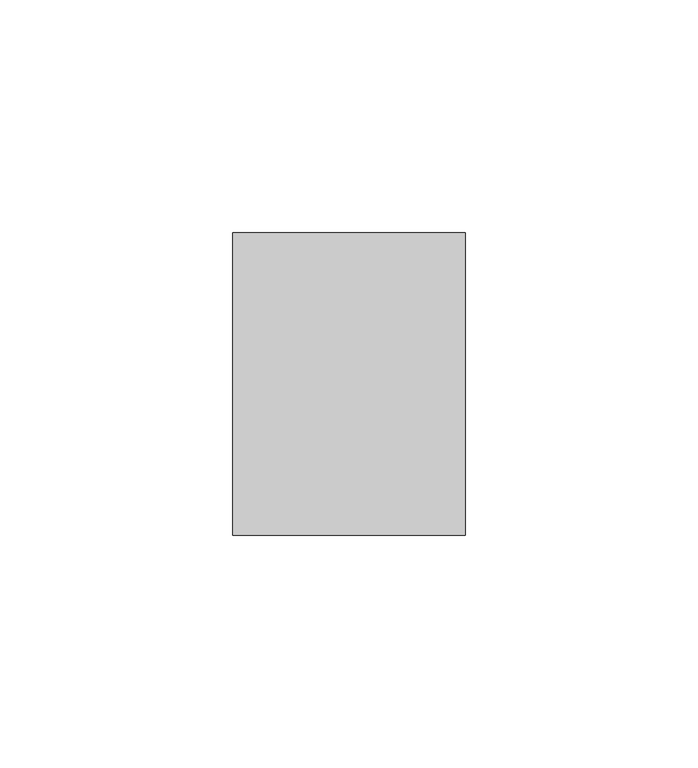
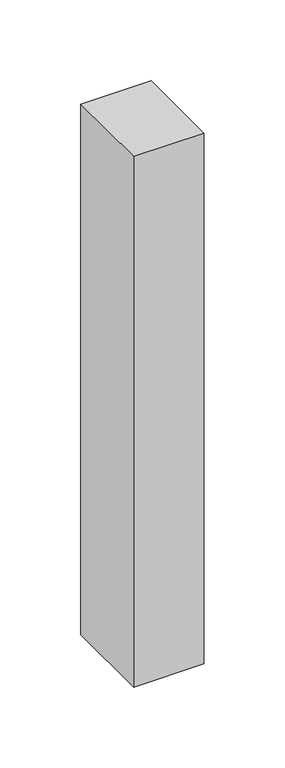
"""IFC4 building model written with IfcOpenShell, lengths in millimetres: member geometry, Прямоугольный импост : 50 мм x 65 мм."""

from ifc_helpers import new_model, si_unit, frame, origin, place, context, project, spatial, polyline, outline, extrude, source, transform, mapped, element, save


def member_734f76e6(model_context):
    return source(origin(), model_context, "Body", "SweptSolid", [
        extrude(outline(polyline([(25.0, 32.5), (25.0, -32.5), (-25.0, -32.5), (-25.0, 32.5), (25.0, 32.5)])), frame((0.0, 0.0, -399.9999997), z_axis=(0.0, 0.0, 1.0), x_axis=(1.0, 0.0, 0.0)), (0.0, 0.0, 1.0), 399.9999997),
    ])


if __name__ == "__main__":
    model = new_model("IFC4")
    model_context = context("Model", 3, world=origin())
    ifc_project = project(units=[si_unit("LENGTHUNIT", "METRE", prefix="MILLI")], contexts=[model_context])
    site = spatial("IfcSite", under=ifc_project)
    building = spatial("IfcBuilding", under=site)
    placement = place(None, origin())
    member_shape = member_734f76e6(model_context)
    element("IfcMember", 1, ObjectType="Прямоугольный импост : 50 мм x 65 мм", at=placement, inside=building, context=model_context, shape_type="MappedRepresentation", body=[
        mapped(member_shape, transform((0.0, 0.0, 0.0), x_axis=(1.0, 0.0, 0.0), y_axis=(0.0, 1.0, 0.0), z_axis=(0.0, 0.0, 1.0))),
    ])
    save(model, "model.ifc")
